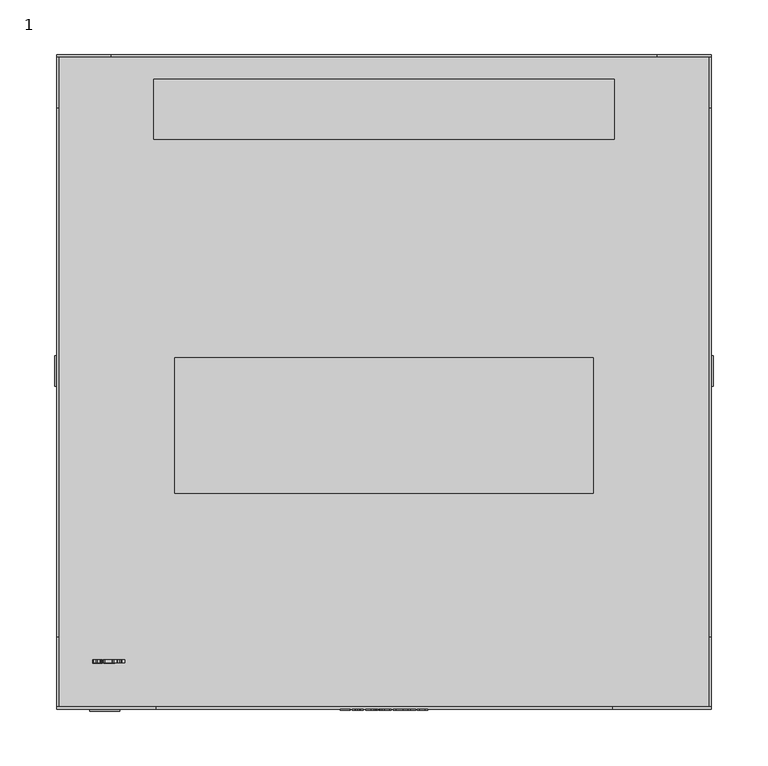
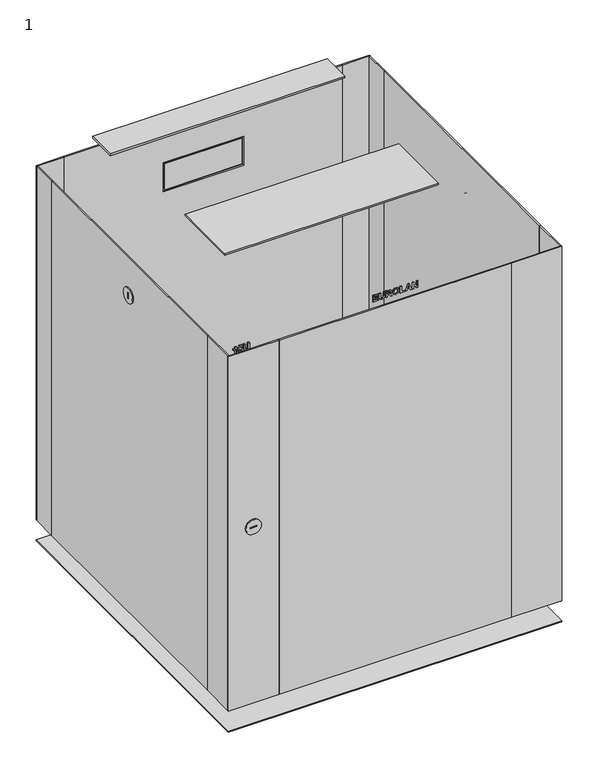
"""IFC4 building model written with IfcOpenShell, lengths in millimetres: proxy geometry, 1 : 15U 600мм стеклянная дверь."""

from ifc_helpers import new_model, si_unit, point, frame, frame_2d, origin, origin_with_axes, place, context, project, spatial, polyline, circle_curve, trimmed, segment, composite_curve, outline, extrude, source, transform, mapped, element, save


def proxy_1_220757b3(model_context):
    return source(origin(), model_context, "Body", "SweptSolid", [
        extrude(outline(polyline([(728.0, -40.3245382), (728.0, -30.9964522), (730.1376864, -30.9964522), (730.1376864, -37.9925167), (733.2470483, -37.9925167), (733.2470483, -31.5794576), (735.3847347, -31.5794576), (735.3847347, -37.9925167), (738.1054264, -37.9925167), (738.1054264, -31.1907874), (740.2431128, -31.1907874), (740.2431128, -40.3245382), (728.0, -40.3245382)])), frame((0.0, -301.0, 0.0), z_axis=(0.0, 1.0, 0.0), x_axis=(0.0, 0.0, 1.0)), (0.0, 0.0, 1.0), 1.0),
        extrude(outline(polyline([(740.2431128, -29.053101), (733.7207402, -29.053101), (730.6174512, -28.8071456), (729.2601418, -28.1026808), (728.2095176, -26.6482039), (727.8056649, -23.9487675), (728.1761162, -21.5575346), (729.173602, -20.0954664), (730.7085458, -19.3454543), (733.8209443, -19.1420097), (740.2431128, -19.1420097), (740.2431128, -21.4740312), (733.4960402, -21.4740312), (731.4236383, -21.5924541), (730.3714958, -22.2923642), (729.9433512, -24.0216432), (730.3973059, -25.7979877), (731.5982363, -26.6208755), (733.6387551, -26.7210795), (740.2431128, -26.7210795), (740.2431128, -29.053101)])), frame((0.0, -301.0, 0.0), z_axis=(0.0, 1.0, 0.0), x_axis=(0.0, 0.0, 1.0)), (0.0, 0.0, 1.0), 1.0),
        extrude(outline(polyline([(728.0, -16.8099882), (728.0, -14.4779667), (733.0527132, -13.9435451), (732.9251808, -12.6120459), (732.4560437, -11.8164865), (730.7966039, -10.4242575), (728.0, -8.6509495), (728.0, -5.9272213), (730.3745323, -7.424209), (732.3512849, -8.7238252), (733.3715443, -9.9475291), (734.5071902, -7.6625732), (736.7936644, -6.8988969), (738.7339791, -7.4272455), (739.9121358, -8.8361752), (740.2431128, -11.6601074), (740.2431128, -16.8099882), (728.0, -16.8099882)]), holes=[polyline([(735.1903996, -14.4779667), (738.1054264, -14.4779667), (738.1054264, -12.4495939), (738.0659521, -10.5548264), (737.6150339, -9.5770778), (736.6782779, -9.2309184), (735.817434, -9.4935744), (735.3315962, -10.2223312), (735.1903996, -12.5558709), (735.1903996, -14.4779667)])]), frame((0.0, -301.0, 0.0), z_axis=(0.0, 1.0, 0.0), x_axis=(0.0, 0.0, 1.0)), (0.0, 0.0, 1.0), 1.0),
        extrude(outline(polyline([(734.0456442, -4.9555457), (729.4681411, -3.3735363), (727.8056649, 0.8896905), (729.4757323, 5.1225524), (734.106374, 6.7045618), (738.7628257, 5.1104065), (740.4374479, 0.8593256), (739.9546466, -1.7338337), (738.8539203, -3.2869964), (737.1792981, -4.4059416), (734.0456442, -4.9555457)]), holes=[polyline([(734.1306659, -2.6235242), (737.2612832, -1.6579215), (738.2997616, 0.886654), (737.2734292, 3.4190836), (734.1640672, 4.3725403), (730.9985302, 3.3932735), (729.9433512, 0.886654), (731.0061214, -1.6321114), (734.1306659, -2.6235242)])]), frame((0.0, -301.0, 0.0), z_axis=(0.0, 1.0, 0.0), x_axis=(0.0, 0.0, 1.0)), (0.0, 0.0, 1.0), 1.0),
        extrude(outline(polyline([(728.0, 8.647913), (728.0, 17.1986585), (730.1376864, 17.1986585), (730.1376864, 10.9799345), (740.2431128, 10.9799345), (740.2431128, 8.647913), (728.0, 8.647913)])), frame((0.0, -301.0, 0.0), z_axis=(0.0, 1.0, 0.0), x_axis=(0.0, 0.0, 1.0)), (0.0, 0.0, 1.0), 1.0),
        extrude(outline(polyline([(728.0, 29.2474361), (740.2431128, 24.7352175), (740.2431128, 22.2513717), (728.0, 17.7816638), (728.0, 20.2655096), (730.7206917, 21.2128934), (730.7206917, 25.837462), (728.0, 26.7969917), (728.0, 29.2474361)]), holes=[polyline([(732.8583781, 25.0904864), (732.8583781, 21.959869), (737.3280859, 23.51455), (732.8583781, 25.0904864)])]), frame((0.0, -301.0, 0.0), z_axis=(0.0, 1.0, 0.0), x_axis=(0.0, 0.0, 1.0)), (0.0, 0.0, 1.0), 1.0),
        extrude(outline(polyline([(728.0, 30.4134469), (728.0, 32.7454684), (736.1195644, 32.7454684), (728.0, 37.8042546), (728.0, 40.3245382), (740.2431128, 40.3245382), (740.2431128, 37.9925167), (732.002089, 37.9925167), (740.2431128, 32.8578184), (740.2431128, 30.4134469), (728.0, 30.4134469)])), frame((0.0, -301.0, 0.0), z_axis=(0.0, 1.0, 0.0), x_axis=(0.0, 0.0, 1.0)), (0.0, 0.0, 1.0), 1.0),
        extrude(outline(composite_curve([segment(trimmed(circle_curve(frame_2d((9.997621, 643.4611412)), 14.0), [point((-4.002379, 643.4611412))], [point((23.997621, 643.4611412))], False, "CARTESIAN"), True, "CONTINUOUS"), segment(trimmed(circle_curve(frame_2d((9.997621, 643.4611412)), 14.0), [point((23.997621, 643.4611412))], [point((-4.002379, 643.4611412))], False, "CARTESIAN"), True, "CONTINUOUS")], self_intersect=False), holes=[polyline([(11.0, 649.5), (9.0, 649.5), (9.0, 637.5), (11.0, 637.5), (11.0, 649.5)])]), frame((-302.0, 0.0, 0.0), z_axis=(1.0, 0.0, 0.0), x_axis=(0.0, 1.0, 0.0)), (0.0, 0.0, 1.0), 2.0),
        extrude(outline(composite_curve([segment(trimmed(circle_curve(frame_2d((9.997621, 643.4611412)), 14.0), [point((-4.002379, 643.4611412))], [point((23.997621, 643.4611412))], False, "CARTESIAN"), True, "CONTINUOUS"), segment(trimmed(circle_curve(frame_2d((9.997621, 643.4611412)), 14.0), [point((23.997621, 643.4611412))], [point((-4.002379, 643.4611412))], False, "CARTESIAN"), True, "CONTINUOUS")], self_intersect=False), holes=[polyline([(11.0, 649.5), (9.0, 649.5), (9.0, 637.5), (11.0, 637.5), (11.0, 649.5)])]), frame((300.0, 0.0, 0.0), z_axis=(1.0, 0.0, 0.0), x_axis=(0.0, 1.0, 0.0)), (0.0, 0.0, 1.0), 2.0),
        extrude(outline(composite_curve([segment(trimmed(circle_curve(frame_2d((376.0, -256.0)), 13.7647373), [point((376.0, -242.2352627))], [point((376.0, -269.7647373))], False, "CARTESIAN"), True, "CONTINUOUS"), segment(trimmed(circle_curve(frame_2d((376.0, -256.0)), 13.7647373), [point((376.0, -269.7647373))], [point((376.0, -242.2352627))], False, "CARTESIAN"), True, "CONTINUOUS")], self_intersect=False), holes=[polyline([(377.0, -250.0), (375.0, -250.0), (375.0, -262.0), (377.0, -262.0), (377.0, -250.0)])]), frame((0.0, -302.0, 0.0), z_axis=(0.0, 1.0, 0.0), x_axis=(0.0, 0.0, 1.0)), (0.0, 0.0, 1.0), 2.0),
        extrude(outline(polyline([(300.0, 300.0), (300.0, -300.0), (-300.0, -300.0), (-300.0, 300.0), (300.0, 300.0)])), origin_with_axes(), (0.0, 0.0, 1.0), 2.0),
        extrude(outline(polyline([(211.0, 277.5), (211.0, 222.5), (-211.0, 222.5), (-211.0, 277.5), (211.0, 277.5)])), frame((0.0, 0.0, 748.9795778), z_axis=(0.0, 0.0, 1.0), x_axis=(1.0, 0.0, 0.0)), (0.0, 0.0, 1.0), 3.0204222),
        extrude(outline(polyline([(192.0, 22.0), (192.0, -102.0), (-192.0, -102.0), (-192.0, 22.0), (192.0, 22.0)])), frame((0.0, 0.0, 748.9795778), z_axis=(0.0, 0.0, 1.0), x_axis=(1.0, 0.0, 0.0)), (0.0, 0.0, 1.0), 3.0204222),
        extrude(outline(polyline([(-69.5, 300.0), (69.5, 300.0), (69.5, 298.0), (-69.5, 298.0), (-69.5, 300.0)])), frame((0.0, 0.0, 589.0), z_axis=(0.0, 0.0, 1.0), x_axis=(1.0, 0.0, 0.0)), (0.0, 0.0, 1.0), 49.0),
        extrude(outline(polyline([(714.0, -250.0), (40.0, -250.0), (40.0, 250.0), (714.0, 250.0), (714.0, -250.0)]), holes=[polyline([(641.0, -72.5), (641.0, 72.5), (586.0, 72.5), (586.0, -72.5), (641.0, -72.5)])]), frame((0.0, 298.0, 0.0), z_axis=(0.0, 1.0, 0.0), x_axis=(0.0, 0.0, 1.0)), (0.0, 0.0, 1.0), 2.0),
        extrude(outline(polyline([(-300.0, 300.0), (-250.0, 300.0), (-250.0, 298.0), (-300.0, 298.0), (-300.0, 300.0)])), frame((0.0, 0.0, 40.0), z_axis=(0.0, 0.0, 1.0), x_axis=(1.0, 0.0, 0.0)), (0.0, 0.0, 1.0), 674.0),
        extrude(outline(polyline([(250.0, 300.0), (300.0, 300.0), (300.0, 298.0), (250.0, 298.0), (250.0, 300.0)])), frame((0.0, 0.0, 40.0), z_axis=(0.0, 0.0, 1.0), x_axis=(1.0, 0.0, 0.0)), (0.0, 0.0, 1.0), 674.0),
        extrude(outline(polyline([(-209.0, -298.0), (209.0, -298.0), (209.0, -300.0), (-209.0, -300.0), (-209.0, -298.0)])), frame((0.0, 0.0, 40.0), z_axis=(0.0, 0.0, 1.0), x_axis=(1.0, 0.0, 0.0)), (0.0, 0.0, 1.0), 674.0),
        extrude(outline(polyline([(209.0, -298.0), (300.0, -298.0), (300.0, -300.0), (209.0, -300.0), (209.0, -298.0)])), frame((0.0, 0.0, 40.0), z_axis=(0.0, 0.0, 1.0), x_axis=(1.0, 0.0, 0.0)), (0.0, 0.0, 1.0), 674.0),
        extrude(outline(polyline([(-300.0, -298.0), (-209.0, -298.0), (-209.0, -300.0), (-300.0, -300.0), (-300.0, -298.0)])), frame((0.0, 0.0, 40.0), z_axis=(0.0, 0.0, 1.0), x_axis=(1.0, 0.0, 0.0)), (0.0, 0.0, 1.0), 674.0),
        extrude(outline(polyline([(-298.0, 250.8155315), (-298.0, -233.7095641), (-300.0, -233.7095641), (-300.0, 250.8155315), (-298.0, 250.8155315)])), frame((0.0, 0.0, 40.0), z_axis=(0.0, 0.0, 1.0), x_axis=(1.0, 0.0, 0.0)), (0.0, 0.0, 1.0), 674.0),
        extrude(outline(polyline([(-298.0, -233.7095641), (-298.0, -300.0), (-300.0, -300.0), (-300.0, -233.7095641), (-298.0, -233.7095641)])), frame((0.0, 0.0, 40.0), z_axis=(0.0, 0.0, 1.0), x_axis=(1.0, 0.0, 0.0)), (0.0, 0.0, 1.0), 674.0),
        extrude(outline(polyline([(-298.0, 300.0), (-298.0, 250.8155315), (-300.0, 250.8155315), (-300.0, 300.0), (-298.0, 300.0)])), frame((0.0, 0.0, 40.0), z_axis=(0.0, 0.0, 1.0), x_axis=(1.0, 0.0, 0.0)), (0.0, 0.0, 1.0), 674.0),
        extrude(outline(polyline([(300.0, 250.8155315), (300.0, -233.7095641), (298.0, -233.7095641), (298.0, 250.8155315), (300.0, 250.8155315)])), frame((0.0, 0.0, 40.0), z_axis=(0.0, 0.0, 1.0), x_axis=(1.0, 0.0, 0.0)), (0.0, 0.0, 1.0), 674.0),
        extrude(outline(polyline([(300.0, 300.0), (300.0, 250.8155315), (298.0, 250.8155315), (298.0, 300.0), (300.0, 300.0)])), frame((0.0, 0.0, 40.0), z_axis=(0.0, 0.0, 1.0), x_axis=(1.0, 0.0, 0.0)), (0.0, 0.0, 1.0), 674.0),
        extrude(outline(polyline([(300.0, -233.7095641), (300.0, -300.0), (298.0, -300.0), (298.0, -233.7095641), (300.0, -233.7095641)])), frame((0.0, 0.0, 40.0), z_axis=(0.0, 0.0, 1.0), x_axis=(1.0, 0.0, 0.0)), (0.0, 0.0, 1.0), 674.0),
        extrude(outline(polyline([(680.748317, -260.6030776), (692.9914298, -260.6030776), (692.9914298, -262.4614073), (691.0253049, -263.9037383), (689.8820678, -265.850126), (687.5500463, -265.850126), (689.4994705, -262.9350991), (680.748317, -262.9350991), (680.748317, -260.6030776)])), frame((0.0, -257.6777479, 0.0), z_axis=(0.0, 1.0, 0.0), x_axis=(0.0, 0.0, 1.0)), (0.0, 0.0, 1.0), 3.0),
        extrude(outline(polyline([(684.1947289, -257.1050454), (681.5408399, -255.8676772), (680.5539818, -253.194051), (682.1268817, -249.984485), (684.7473694, -249.1373053), (687.6122943, -250.1545282), (688.716057, -252.6323011), (688.2393287, -254.1353618), (690.4650731, -253.6647064), (690.4650731, -249.7203107), (692.7970946, -249.7203107), (692.7970946, -255.5503644), (685.9073072, -256.9107103), (685.606695, -254.8884104), (686.5783707, -253.1819051), (686.1077153, -251.9445369), (684.6957492, -251.4693268), (683.1911702, -251.9809748), (682.6916682, -253.2304889), (683.1623236, -254.3722077), (684.4406843, -254.967359), (684.1947289, -257.1050454)])), frame((0.0, -257.6777479, 0.0), z_axis=(0.0, 1.0, 0.0), x_axis=(0.0, 0.0, 1.0)), (0.0, 0.0, 1.0), 3.0),
        extrude(outline(polyline([(692.9914298, -247.3882892), (686.4690572, -247.3882892), (683.3657682, -247.1423338), (682.0084588, -246.437869), (680.9578345, -244.9833921), (680.5539818, -242.2839557), (680.9244332, -239.8927228), (681.9219189, -238.4306546), (683.4568627, -237.6806425), (686.5692612, -237.4771979), (692.9914298, -237.4771979), (692.9914298, -239.8092194), (686.2443572, -239.8092194), (684.1719553, -239.9276424), (683.1198128, -240.6275524), (682.6916682, -242.3568314), (683.1456229, -244.1331759), (684.3465532, -244.9560637), (686.387072, -245.0562677), (692.9914298, -245.0562677), (692.9914298, -247.3882892)])), frame((0.0, -257.6777479, 0.0), z_axis=(0.0, 1.0, 0.0), x_axis=(0.0, 0.0, 1.0)), (0.0, 0.0, 1.0), 3.0),
        extrude(outline(polyline([(636.0351924, -260.6030776), (648.2783052, -260.6030776), (648.2783052, -262.4614073), (646.3121803, -263.9037383), (645.1689432, -265.850126), (642.8369217, -265.850126), (644.7863459, -262.9350991), (636.0351924, -262.9350991), (636.0351924, -260.6030776)])), frame((0.0, -257.6777479, 0.0), z_axis=(0.0, 1.0, 0.0), x_axis=(0.0, 0.0, 1.0)), (0.0, 0.0, 1.0), 3.0),
        extrude(outline(polyline([(636.0351924, -252.8296727), (636.0351924, -250.4976512), (638.561549, -250.4976512), (638.561549, -248.9429702), (640.5049002, -248.9429702), (640.5049002, -250.4976512), (648.08397, -250.4976512), (648.08397, -252.5199511), (640.4957907, -257.4937157), (638.561549, -257.4937157), (638.561549, -252.8296727), (636.0351924, -252.8296727)]), holes=[polyline([(640.5049002, -252.8296727), (640.5049002, -255.4349779), (644.4826973, -252.8296727), (640.5049002, -252.8296727)])]), frame((0.0, -257.6777479, 0.0), z_axis=(0.0, 1.0, 0.0), x_axis=(0.0, 0.0, 1.0)), (0.0, 0.0, 1.0), 3.0),
        extrude(outline(polyline([(648.2783052, -247.3882892), (641.7559326, -247.3882892), (638.6526436, -247.1423338), (637.2953342, -246.437869), (636.2447099, -244.9833921), (635.8408572, -242.2839557), (636.2113086, -239.8927228), (637.2087943, -238.4306546), (638.7437381, -237.6806425), (641.8561366, -237.4771979), (648.2783052, -237.4771979), (648.2783052, -239.8092194), (641.5312326, -239.8092194), (639.4588307, -239.9276424), (638.4066882, -240.6275524), (637.9785436, -242.3568314), (638.4324983, -244.1331759), (639.6334286, -244.9560637), (641.6739474, -245.0562677), (648.2783052, -245.0562677), (648.2783052, -247.3882892)])), frame((0.0, -257.6777479, 0.0), z_axis=(0.0, 1.0, 0.0), x_axis=(0.0, 0.0, 1.0)), (0.0, 0.0, 1.0), 3.0),
        extrude(outline(polyline([(591.485825, -260.6030776), (603.7289378, -260.6030776), (603.7289378, -262.4614073), (601.762813, -263.9037383), (600.6195759, -265.850126), (598.2875544, -265.850126), (600.2369786, -262.9350991), (591.485825, -262.9350991), (591.485825, -260.6030776)])), frame((0.0, -257.6777479, 0.0), z_axis=(0.0, 1.0, 0.0), x_axis=(0.0, 0.0, 1.0)), (0.0, 0.0, 1.0), 3.0),
        extrude(outline(polyline([(594.9079451, -257.1050454), (592.2920122, -255.8919691), (591.2914899, -253.2578173), (592.4165081, -250.4566586), (595.1356816, -249.3316405), (597.0137484, -249.9662661), (598.0142706, -251.6606255), (600.5861745, -249.9146458), (602.6266933, -250.7284242), (603.7289378, -253.3458754), (603.3311581, -255.0690813), (602.2395413, -256.2684934), (600.3857664, -256.9107103), (600.0365705, -254.5786888), (601.19499, -254.1611719), (601.5912515, -253.3306929), (601.2496468, -252.5427247), (600.3341462, -252.2466673), (599.253157, -252.6429288), (598.8705597, -253.7922388), (596.9484639, -253.9956834), (597.1215436, -253.0695551), (596.6387423, -252.0720693), (595.3300167, -251.6636619), (593.9438607, -252.1100254), (593.4291763, -253.21227), (593.8785763, -254.2477118), (595.1781924, -254.7730239), (594.9079451, -257.1050454)])), frame((0.0, -257.6777479, 0.0), z_axis=(0.0, 1.0, 0.0), x_axis=(0.0, 0.0, 1.0)), (0.0, 0.0, 1.0), 3.0),
        extrude(outline(polyline([(603.7289378, -247.3882892), (597.2065653, -247.3882892), (594.1032762, -247.1423338), (592.7459669, -246.437869), (591.6953426, -244.9833921), (591.2914899, -242.2839557), (591.6619413, -239.8927228), (592.659427, -238.4306546), (594.1943708, -237.6806425), (597.3067693, -237.4771979), (603.7289378, -237.4771979), (603.7289378, -239.8092194), (596.9818653, -239.8092194), (594.9094634, -239.9276424), (593.8573209, -240.6275524), (593.4291763, -242.3568314), (593.883131, -244.1331759), (595.0840613, -244.9560637), (597.1245801, -245.0562677), (603.7289378, -245.0562677), (603.7289378, -247.3882892)])), frame((0.0, -257.6777479, 0.0), z_axis=(0.0, 1.0, 0.0), x_axis=(0.0, 0.0, 1.0)), (0.0, 0.0, 1.0), 3.0),
        extrude(outline(polyline([(547.6333267, -260.6030776), (559.8764395, -260.6030776), (559.8764395, -262.4614073), (557.9103146, -263.9037383), (556.7670775, -265.850126), (554.435056, -265.850126), (556.3844802, -262.9350991), (547.6333267, -262.9350991), (547.6333267, -260.6030776)])), frame((0.0, -257.6777479, 0.0), z_axis=(0.0, 1.0, 0.0), x_axis=(0.0, 0.0, 1.0)), (0.0, 0.0, 1.0), 3.0),
        extrude(outline(polyline([(549.9653481, -249.3316405), (550.6030103, -253.2395983), (551.9299548, -251.9080991), (553.4603439, -250.4581769), (554.9937695, -249.6018877), (556.5363045, -249.3316405), (558.918428, -250.3184985), (559.8764395, -253.0331173), (559.0216686, -255.6596779), (556.202291, -256.9107103), (555.989737, -254.5786888), (557.3333822, -254.1292888), (557.7387531, -253.0847375), (557.3273092, -252.0417045), (556.1476343, -251.6636619), (554.7447776, -252.1130619), (552.7892804, -253.9167348), (549.9213191, -256.3611063), (547.6333267, -257.1050454), (547.6333267, -249.3316405), (549.9653481, -249.3316405)])), frame((0.0, -257.6777479, 0.0), z_axis=(0.0, 1.0, 0.0), x_axis=(0.0, 0.0, 1.0)), (0.0, 0.0, 1.0), 3.0),
        extrude(outline(polyline([(559.8764395, -247.3882892), (553.3540669, -247.3882892), (550.2507779, -247.1423338), (548.8934685, -246.437869), (547.8428442, -244.9833921), (547.4389915, -242.2839557), (547.8094429, -239.8927228), (548.8069286, -238.4306546), (550.3418725, -237.6806425), (553.4542709, -237.4771979), (559.8764395, -237.4771979), (559.8764395, -239.8092194), (553.1293669, -239.8092194), (551.056965, -239.9276424), (550.0048225, -240.6275524), (549.5766779, -242.3568314), (550.0306326, -244.1331759), (551.2315629, -244.9560637), (553.2720817, -245.0562677), (559.8764395, -245.0562677), (559.8764395, -247.3882892)])), frame((0.0, -257.6777479, 0.0), z_axis=(0.0, 1.0, 0.0), x_axis=(0.0, 0.0, 1.0)), (0.0, 0.0, 1.0), 3.0),
        extrude(outline(polyline([(501.1786301, -260.6030776), (513.4217429, -260.6030776), (513.4217429, -262.4614073), (511.455618, -263.9037383), (510.3123809, -265.850126), (507.9803594, -265.850126), (509.9297836, -262.9350991), (501.1786301, -262.9350991), (501.1786301, -260.6030776)])), frame((0.0, -257.6777479, 0.0), z_axis=(0.0, 1.0, 0.0), x_axis=(0.0, 0.0, 1.0)), (0.0, 0.0, 1.0), 3.0),
        extrude(outline(polyline([(501.1786301, -251.2749917), (513.4217429, -251.2749917), (513.4217429, -253.1333213), (511.455618, -254.5756523), (510.3123809, -256.52204), (507.9803594, -256.52204), (509.9297836, -253.6070132), (501.1786301, -253.6070132), (501.1786301, -251.2749917)])), frame((0.0, -257.6777479, 0.0), z_axis=(0.0, 1.0, 0.0), x_axis=(0.0, 0.0, 1.0)), (0.0, 0.0, 1.0), 3.0),
        extrude(outline(polyline([(513.4217429, -247.3882892), (506.8993703, -247.3882892), (503.7960813, -247.1423338), (502.4387719, -246.437869), (501.3881476, -244.9833921), (500.9842949, -242.2839557), (501.3547463, -239.8927228), (502.352232, -238.4306546), (503.8871758, -237.6806425), (506.9995743, -237.4771979), (513.4217429, -237.4771979), (513.4217429, -239.8092194), (506.6746703, -239.8092194), (504.6022684, -239.9276424), (503.5501259, -240.6275524), (503.1219813, -242.3568314), (503.575936, -244.1331759), (504.7768663, -244.9560637), (506.8173851, -245.0562677), (513.4217429, -245.0562677), (513.4217429, -247.3882892)])), frame((0.0, -257.6777479, 0.0), z_axis=(0.0, 1.0, 0.0), x_axis=(0.0, 0.0, 1.0)), (0.0, 0.0, 1.0), 3.0),
        extrude(outline(polyline([(457.3261317, -260.6030776), (469.5692445, -260.6030776), (469.5692445, -262.4614073), (467.6031196, -263.9037383), (466.4598825, -265.850126), (464.127861, -265.850126), (466.0772852, -262.9350991), (457.3261317, -262.9350991), (457.3261317, -260.6030776)])), frame((0.0, -257.6777479, 0.0), z_axis=(0.0, 1.0, 0.0), x_axis=(0.0, 0.0, 1.0)), (0.0, 0.0, 1.0), 3.0),
        extrude(outline(polyline([(469.5692445, -253.2183429), (468.3242851, -255.9299252), (463.3717759, -257.1050454), (458.4982154, -256.034684), (457.1317966, -253.2183429), (458.3767559, -250.5067607), (463.347484, -249.3316405), (468.3060662, -250.5006877), (469.5692445, -253.2183429)]), holes=[polyline([(467.4315581, -253.2183429), (467.174975, -252.4455572), (466.1531974, -251.8853254), (463.347484, -251.6636619), (460.4476396, -251.9126538), (459.526066, -252.4410024), (459.2694829, -253.2183429), (459.5230295, -253.9911287), (460.5402524, -254.5513604), (463.347484, -254.7730239), (466.2534014, -254.524032), (467.174975, -253.9956834), (467.4315581, -253.2183429)])]), frame((0.0, -257.6777479, 0.0), z_axis=(0.0, 1.0, 0.0), x_axis=(0.0, 0.0, 1.0)), (0.0, 0.0, 1.0), 3.0),
        extrude(outline(polyline([(469.5692445, -247.3882892), (463.0468719, -247.3882892), (459.9435829, -247.1423338), (458.5862735, -246.437869), (457.5356492, -244.9833921), (457.1317966, -242.2839557), (457.5022479, -239.8927228), (458.4997336, -238.4306546), (460.0346775, -237.6806425), (463.1470759, -237.4771979), (469.5692445, -237.4771979), (469.5692445, -239.8092194), (462.8221719, -239.8092194), (460.74977, -239.9276424), (459.6976275, -240.6275524), (459.2694829, -242.3568314), (459.7234376, -244.1331759), (460.924368, -244.9560637), (462.9648868, -245.0562677), (469.5692445, -245.0562677), (469.5692445, -247.3882892)])), frame((0.0, -257.6777479, 0.0), z_axis=(0.0, 1.0, 0.0), x_axis=(0.0, 0.0, 1.0)), (0.0, 0.0, 1.0), 3.0),
        extrude(outline(polyline([(416.2414631, -266.2387962), (413.8062011, -265.1547706), (412.9924228, -262.9381356), (414.4696734, -259.8469925), (419.2870589, -258.6597264), (423.9981674, -259.7953723), (425.4298707, -262.7012897), (424.3169985, -265.3809888), (421.3852709, -266.4331314), (418.550711, -265.4083172), (417.4621306, -262.971537), (418.476317, -260.8065222), (415.7753625, -261.4290019), (415.1301091, -262.6071586), (415.4641226, -263.4922944), (416.490455, -263.9067747), (416.2414631, -266.2387962)]), holes=[polyline([(421.3306142, -260.9917479), (420.0385892, -261.4365931), (419.599817, -262.5312464), (420.0568082, -263.6517099), (421.4885115, -264.1011099), (422.8701127, -263.6881477), (423.2921843, -262.6496694), (422.7774999, -261.4927681), (421.3306142, -260.9917479)])]), frame((0.0, -257.6777479, 0.0), z_axis=(0.0, 1.0, 0.0), x_axis=(0.0, 0.0, 1.0)), (0.0, 0.0, 1.0), 3.0),
        extrude(outline(polyline([(425.4298707, -256.7163752), (418.9074981, -256.7163752), (415.8042091, -256.4704198), (414.4468997, -255.7659549), (413.3962754, -254.311478), (412.9924228, -251.6120417), (413.3628741, -249.2208087), (414.3603599, -247.7587405), (415.8953037, -247.0087284), (419.0077021, -246.8052838), (425.4298707, -246.8052838), (425.4298707, -249.1373053), (418.6827981, -249.1373053), (416.6103962, -249.2557283), (415.5582537, -249.9556384), (415.1301091, -251.6849173), (415.5840638, -253.4612618), (416.7849942, -254.2841496), (418.825513, -254.3843537), (425.4298707, -254.3843537), (425.4298707, -256.7163752)])), frame((0.0, -257.6777479, 0.0), z_axis=(0.0, 1.0, 0.0), x_axis=(0.0, 0.0, 1.0)), (0.0, 0.0, 1.0), 3.0),
        extrude(outline(polyline([(376.4962498, -264.3865396), (375.2254803, -265.9397023), (373.4172527, -266.4331314), (370.6024299, -265.1669166), (369.7339948, -262.4826627), (370.784619, -259.7042777), (373.5174567, -258.6597264), (375.3120201, -259.1865568), (376.4962498, -260.7245371), (377.508918, -259.3444541), (379.0226064, -258.8540615), (381.280234, -259.8227007), (382.1714427, -262.5464289), (381.280234, -265.2777483), (379.0226064, -266.2387962), (377.5499105, -265.7985057), (376.4962498, -264.3865396)]), holes=[polyline([(378.8798915, -263.9067747), (380.000355, -263.5332869), (380.4224266, -262.5312464), (380.0033915, -261.5550161), (378.889001, -261.186083), (377.7320997, -261.5595708), (377.3130646, -262.5555383), (377.727545, -263.5378417), (378.8798915, -263.9067747)]), polyline([(373.6146243, -264.1011099), (374.94916, -263.7169943), (375.5640485, -262.5494654), (375.0220357, -261.4320384), (373.5872959, -260.9917479), (372.0250237, -261.4244472), (371.4830109, -262.5191005), (372.0462791, -263.6486734), (373.6146243, -264.1011099)])]), frame((0.0, -257.6777479, 0.0), z_axis=(0.0, 1.0, 0.0), x_axis=(0.0, 0.0, 1.0)), (0.0, 0.0, 1.0), 3.0),
        extrude(outline(polyline([(382.1714427, -256.7163752), (375.6490701, -256.7163752), (372.5457811, -256.4704198), (371.1884717, -255.7659549), (370.1378475, -254.311478), (369.7339948, -251.6120417), (370.1044461, -249.2208087), (371.1019319, -247.7587405), (372.6368757, -247.0087284), (375.7492742, -246.8052838), (382.1714427, -246.8052838), (382.1714427, -249.1373053), (375.4243701, -249.1373053), (373.3519682, -249.2557283), (372.2998257, -249.9556384), (371.8716811, -251.6849173), (372.3256358, -253.4612618), (373.5265662, -254.2841496), (375.567085, -254.3843537), (382.1714427, -254.3843537), (382.1714427, -256.7163752)])), frame((0.0, -257.6777479, 0.0), z_axis=(0.0, 1.0, 0.0), x_axis=(0.0, 0.0, 1.0)), (0.0, 0.0, 1.0), 3.0),
        extrude(outline(polyline([(334.6450861, -266.4331314), (334.6450861, -261.3257614), (330.0129262, -264.008497), (324.9283299, -265.0727855), (324.9283299, -262.740764), (328.5812229, -262.2154519), (332.440597, -260.6622891), (335.2280915, -258.6597264), (336.9771076, -258.6597264), (336.9771076, -266.4331314), (334.6450861, -266.4331314)])), frame((0.0, -257.6777479, 0.0), z_axis=(0.0, 1.0, 0.0), x_axis=(0.0, 0.0, 1.0)), (0.0, 0.0, 1.0), 3.0),
        extrude(outline(polyline([(337.1714427, -256.7163752), (330.6490701, -256.7163752), (327.5457811, -256.4704198), (326.1884717, -255.7659549), (325.1378475, -254.311478), (324.7339948, -251.6120417), (325.1044461, -249.2208087), (326.1019319, -247.7587405), (327.6368757, -247.0087284), (330.7492742, -246.8052838), (337.1714427, -246.8052838), (337.1714427, -249.1373053), (330.4243701, -249.1373053), (328.3519682, -249.2557283), (327.2998257, -249.9556384), (326.8716811, -251.6849173), (327.3256358, -253.4612618), (328.5265662, -254.2841496), (330.567085, -254.3843537), (337.1714427, -254.3843537), (337.1714427, -256.7163752)])), frame((0.0, -257.6777479, 0.0), z_axis=(0.0, 1.0, 0.0), x_axis=(0.0, 0.0, 1.0)), (0.0, 0.0, 1.0), 3.0),
        extrude(outline(polyline([(287.6111434, -258.8540615), (290.0281866, -259.9654155), (290.8601838, -262.1668681), (289.381415, -265.2473834), (284.5534017, -266.4331314), (279.8559574, -265.2974855), (278.4227359, -262.4006775), (279.5325716, -259.7073142), (282.4764451, -258.6597264), (285.2973409, -259.6845405), (286.390476, -262.1486492), (285.3671801, -264.2802626), (288.0772441, -263.6638558), (288.7224974, -262.4674802), (288.3900022, -261.5990451), (287.3621516, -261.186083), (287.6111434, -258.8540615)]), holes=[polyline([(282.5280654, -264.1011099), (283.8155356, -263.6532281), (284.2527896, -262.5585748), (283.7957984, -261.4396296), (282.3549856, -260.9917479), (280.9794573, -261.4077465), (280.5604222, -262.4462248), (281.0720702, -263.5970531), (282.5280654, -264.1011099)])]), frame((0.0, -257.6777479, 0.0), z_axis=(0.0, 1.0, 0.0), x_axis=(0.0, 0.0, 1.0)), (0.0, 0.0, 1.0), 3.0),
        extrude(outline(polyline([(290.8601838, -256.7163752), (284.3378112, -256.7163752), (281.2345222, -256.4704198), (279.8772128, -255.7659549), (278.8265886, -254.311478), (278.4227359, -251.6120417), (278.7931872, -249.2208087), (279.790673, -247.7587405), (281.3256168, -247.0087284), (284.4380153, -246.8052838), (290.8601838, -246.8052838), (290.8601838, -249.1373053), (284.1131112, -249.1373053), (282.0407093, -249.2557283), (280.9885668, -249.9556384), (280.5604222, -251.6849173), (281.0143769, -253.4612618), (282.2153073, -254.2841496), (284.2558261, -254.3843537), (290.8601838, -254.3843537), (290.8601838, -256.7163752)])), frame((0.0, -257.6777479, 0.0), z_axis=(0.0, 1.0, 0.0), x_axis=(0.0, 0.0, 1.0)), (0.0, 0.0, 1.0), 3.0),
        extrude(outline(polyline([(237.3503584, -266.4331314), (234.6964693, -265.1957632), (233.7096113, -262.522137), (235.2825112, -259.312571), (237.9029989, -258.4653913), (240.7679237, -259.4826142), (241.8716865, -261.960387), (241.3949581, -263.4634477), (243.6207026, -262.9927924), (243.6207026, -259.0483966), (245.9527241, -259.0483966), (245.9527241, -264.8784504), (239.0629366, -266.2387962), (238.7623245, -264.2164963), (239.7340001, -262.509991), (239.2633447, -261.2726229), (237.8513786, -260.7974128), (236.3467996, -261.3090607), (235.8472976, -262.5585748), (236.317953, -263.7002937), (237.5963138, -264.295445), (237.3503584, -266.4331314)])), frame((0.0, -257.6777479, 0.0), z_axis=(0.0, 1.0, 0.0), x_axis=(0.0, 0.0, 1.0)), (0.0, 0.0, 1.0), 3.0),
        extrude(outline(polyline([(246.1470592, -256.7163752), (239.6246866, -256.7163752), (236.5213976, -256.4704198), (235.1640882, -255.7659549), (234.113464, -254.311478), (233.7096113, -251.6120417), (234.0800626, -249.2208087), (235.0775484, -247.7587405), (236.6124922, -247.0087284), (239.7248907, -246.8052838), (246.1470592, -246.8052838), (246.1470592, -249.1373053), (239.3999866, -249.1373053), (237.3275847, -249.2557283), (236.2754422, -249.9556384), (235.8472976, -251.6849173), (236.3012523, -253.4612618), (237.5021827, -254.2841496), (239.5427015, -254.3843537), (246.1470592, -254.3843537), (246.1470592, -256.7163752)])), frame((0.0, -257.6777479, 0.0), z_axis=(0.0, 1.0, 0.0), x_axis=(0.0, 0.0, 1.0)), (0.0, 0.0, 1.0), 3.0),
        extrude(outline(polyline([(189.9283299, -262.1577586), (189.9283299, -259.8257371), (192.4546865, -259.8257371), (192.4546865, -258.2710562), (194.3980377, -258.2710562), (194.3980377, -259.8257371), (201.9771076, -259.8257371), (201.9771076, -261.848037), (194.3889283, -266.8218016), (192.4546865, -266.8218016), (192.4546865, -262.1577586), (189.9283299, -262.1577586)]), holes=[polyline([(194.3980377, -262.1577586), (194.3980377, -264.7630639), (198.3758348, -262.1577586), (194.3980377, -262.1577586)])]), frame((0.0, -257.6777479, 0.0), z_axis=(0.0, 1.0, 0.0), x_axis=(0.0, 0.0, 1.0)), (0.0, 0.0, 1.0), 3.0),
        extrude(outline(polyline([(202.1714427, -256.7163752), (195.6490701, -256.7163752), (192.5457811, -256.4704198), (191.1884717, -255.7659549), (190.1378475, -254.311478), (189.7339948, -251.6120417), (190.1044461, -249.2208087), (191.1019319, -247.7587405), (192.6368757, -247.0087284), (195.7492742, -246.8052838), (202.1714427, -246.8052838), (202.1714427, -249.1373053), (195.4243701, -249.1373053), (193.3519682, -249.2557283), (192.2998257, -249.9556384), (191.8716811, -251.6849173), (192.3256358, -253.4612618), (193.5265662, -254.2841496), (195.567085, -254.3843537), (202.1714427, -254.3843537), (202.1714427, -256.7163752)])), frame((0.0, -257.6777479, 0.0), z_axis=(0.0, 1.0, 0.0), x_axis=(0.0, 0.0, 1.0)), (0.0, 0.0, 1.0), 3.0),
        extrude(outline(polyline([(148.35045, -266.4331314), (145.734517, -265.2200551), (144.7339948, -262.5859032), (145.859013, -259.7847446), (148.5781864, -258.6597264), (150.4562532, -259.294352), (151.4567755, -260.9887114), (154.0286794, -259.2427318), (156.0691982, -260.0565101), (157.1714427, -262.6739613), (156.773663, -264.3971673), (155.6820462, -265.5965794), (153.8282713, -266.2387962), (153.4790753, -263.9067747), (154.6374949, -263.4892579), (155.0337563, -262.6587789), (154.6921516, -261.8708107), (153.776651, -261.5747533), (152.6956619, -261.9710147), (152.3130646, -263.1203248), (150.3909688, -263.3237694), (150.5640485, -262.397641), (150.0812472, -261.4001553), (148.7725216, -260.9917479), (147.3863656, -261.4381114), (146.8716811, -262.5403559), (147.3210811, -263.5757977), (148.6206973, -264.1011099), (148.35045, -266.4331314)])), frame((0.0, -257.6777479, 0.0), z_axis=(0.0, 1.0, 0.0), x_axis=(0.0, 0.0, 1.0)), (0.0, 0.0, 1.0), 3.0),
        extrude(outline(polyline([(157.1714427, -256.7163752), (150.6490701, -256.7163752), (147.5457811, -256.4704198), (146.1884717, -255.7659549), (145.1378475, -254.311478), (144.7339948, -251.6120417), (145.1044461, -249.2208087), (146.1019319, -247.7587405), (147.6368757, -247.0087284), (150.7492742, -246.8052838), (157.1714427, -246.8052838), (157.1714427, -249.1373053), (150.4243701, -249.1373053), (148.3519682, -249.2557283), (147.2998257, -249.9556384), (146.8716811, -251.6849173), (147.3256358, -253.4612618), (148.5265662, -254.2841496), (150.567085, -254.3843537), (157.1714427, -254.3843537), (157.1714427, -256.7163752)])), frame((0.0, -257.6777479, 0.0), z_axis=(0.0, 1.0, 0.0), x_axis=(0.0, 0.0, 1.0)), (0.0, 0.0, 1.0), 3.0),
        extrude(outline(polyline([(103.3014708, -258.8246798), (103.9391329, -262.7326376), (105.2660774, -261.4011384), (106.7964665, -259.9512162), (108.3298921, -259.094927), (109.8724272, -258.8246798), (112.2545507, -259.8115378), (113.2125621, -262.5261566), (112.3577912, -265.1527172), (109.5384137, -266.4037496), (109.3258596, -264.0717281), (110.6695048, -263.6223281), (111.0748758, -262.5777768), (110.6634319, -261.5347438), (109.4837569, -261.1567012), (108.0809003, -261.6061012), (106.1254031, -263.4097741), (103.2574418, -265.8541456), (100.9694493, -266.5980847), (100.9694493, -258.8246798), (103.3014708, -258.8246798)])), frame((0.0, -257.6777479, 0.0), z_axis=(0.0, 1.0, 0.0), x_axis=(0.0, 0.0, 1.0)), (0.0, 0.0, 1.0), 3.0),
        extrude(outline(polyline([(113.2125621, -256.8813285), (106.6901895, -256.8813285), (103.5869005, -256.6353731), (102.2295911, -255.9309083), (101.1789669, -254.4764314), (100.7751142, -251.776995), (101.1455655, -249.3857621), (102.1430513, -247.9236939), (103.6779951, -247.1736818), (106.7903936, -246.9702372), (113.2125621, -246.9702372), (113.2125621, -249.3022587), (106.4654895, -249.3022587), (104.3930876, -249.4206817), (103.3409451, -250.1205917), (102.9128006, -251.8498707), (103.3667553, -253.6262152), (104.5676856, -254.449103), (106.6082044, -254.549307), (113.2125621, -254.549307), (113.2125621, -256.8813285)])), frame((0.0, -257.6777479, 0.0), z_axis=(0.0, 1.0, 0.0), x_axis=(0.0, 0.0, 1.0)), (0.0, 0.0, 1.0), 3.0),
        extrude(outline(polyline([(59.9283299, -260.6030776), (72.1714427, -260.6030776), (72.1714427, -262.4614073), (70.2053178, -263.9037383), (69.0620807, -265.850126), (66.7300592, -265.850126), (68.6794834, -262.9350991), (59.9283299, -262.9350991), (59.9283299, -260.6030776)])), frame((0.0, -257.6777479, 0.0), z_axis=(0.0, 1.0, 0.0), x_axis=(0.0, 0.0, 1.0)), (0.0, 0.0, 1.0), 3.0),
        extrude(outline(polyline([(72.1714427, -256.7163752), (65.6490701, -256.7163752), (62.5457811, -256.4704198), (61.1884717, -255.7659549), (60.1378475, -254.311478), (59.7339948, -251.6120417), (60.1044461, -249.2208087), (61.1019319, -247.7587405), (62.6368757, -247.0087284), (65.7492742, -246.8052838), (72.1714427, -246.8052838), (72.1714427, -249.1373053), (65.4243701, -249.1373053), (63.3519682, -249.2557283), (62.2998257, -249.9556384), (61.8716811, -251.6849173), (62.3256358, -253.4612618), (63.5265662, -254.2841496), (65.567085, -254.3843537), (72.1714427, -254.3843537), (72.1714427, -256.7163752)])), frame((0.0, -257.6777479, 0.0), z_axis=(0.0, 1.0, 0.0), x_axis=(0.0, 0.0, 1.0)), (0.0, 0.0, 1.0), 3.0),
    ])


if __name__ == "__main__":
    model = new_model("IFC4")
    model_context = context("Model", 3, world=origin())
    ifc_project = project(units=[si_unit("LENGTHUNIT", "METRE", prefix="MILLI")], contexts=[model_context])
    site = spatial("IfcSite", under=ifc_project)
    building = spatial("IfcBuilding", under=site)
    placement = place(None, origin())
    proxy_1_shape = proxy_1_220757b3(model_context)
    element("IfcBuildingElementProxy", 1, Name="1 : 15U 600мм стеклянная дверь", ObjectType="1 : 15U 600мм стеклянная дверь", at=placement, inside=building, context=model_context, shape_type="MappedRepresentation", body=[
        mapped(proxy_1_shape, transform((0.0, 0.0, 0.0), x_axis=(1.0, 0.0, 0.0), y_axis=(0.0, 1.0, 0.0), z_axis=(0.0, 0.0, 1.0))),
    ])
    save(model, "model.ifc")
